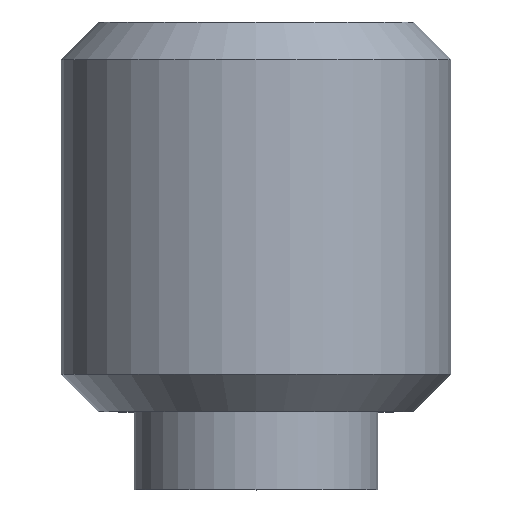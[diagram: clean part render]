
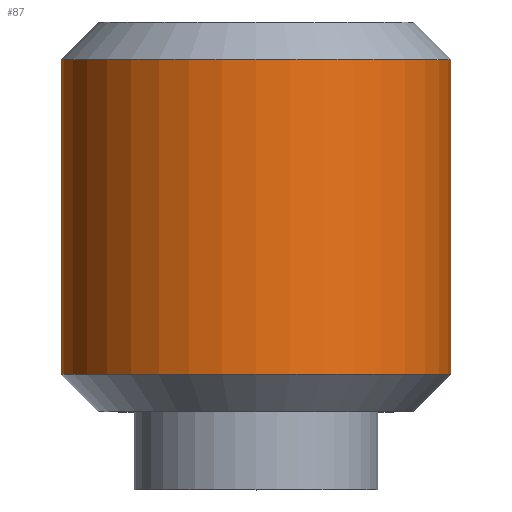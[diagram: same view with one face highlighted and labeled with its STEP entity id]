
A CAD part, top view. The second image highlights one B-rep face of the part: STEP entity #87.
In plain terms, the highlighted cylindrical face has radius 4 mm (diameter 8 mm), a full revolution.
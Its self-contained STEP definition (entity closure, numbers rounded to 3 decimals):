
#87 = ADVANCED_FACE( '', ( #118, #119 ), #120, .T. );
#118 = FACE_OUTER_BOUND( '', #152, .T. );
#119 = FACE_OUTER_BOUND( '', #153, .T. );
#120 = CYLINDRICAL_SURFACE( '', #154, 4. );
#152 = EDGE_LOOP( '', ( #238 ) );
#153 = EDGE_LOOP( '', ( #239 ) );
#154 = AXIS2_PLACEMENT_3D( '', #240, #241, #242 );
#238 = ORIENTED_EDGE( '', *, *, #270, .F. );
#239 = ORIENTED_EDGE( '', *, *, #271, .T. );
#240 = CARTESIAN_POINT( '', ( 0., 0., 0. ) );
#241 = DIRECTION( '', ( 0., 1., 0. ) );
#242 = DIRECTION( '', ( 0., 0., -1. ) );
#270 = EDGE_CURVE( '', #310, #310, #311, .T. );
#271 = EDGE_CURVE( '', #312, #312, #313, .T. );
#310 = VERTEX_POINT( '', #370 );
#311 = CIRCLE( '', #371, 4. );
#312 = VERTEX_POINT( '', #372 );
#313 = CIRCLE( '', #373, 4. );
#370 = CARTESIAN_POINT( '', ( 0., 2.367, -4. ) );
#371 = AXIS2_PLACEMENT_3D( '', #404, #405, #406 );
#372 = CARTESIAN_POINT( '', ( 0., 8.833, -4. ) );
#373 = AXIS2_PLACEMENT_3D( '', #407, #408, #409 );
#404 = CARTESIAN_POINT( '', ( 0., 2.367, 0. ) );
#405 = DIRECTION( '', ( 0., -1., 0. ) );
#406 = DIRECTION( '', ( 0., 0., -1. ) );
#407 = CARTESIAN_POINT( '', ( 0., 8.833, 0. ) );
#408 = DIRECTION( '', ( 0., -1., 0. ) );
#409 = DIRECTION( '', ( 0., 0., -1. ) );
